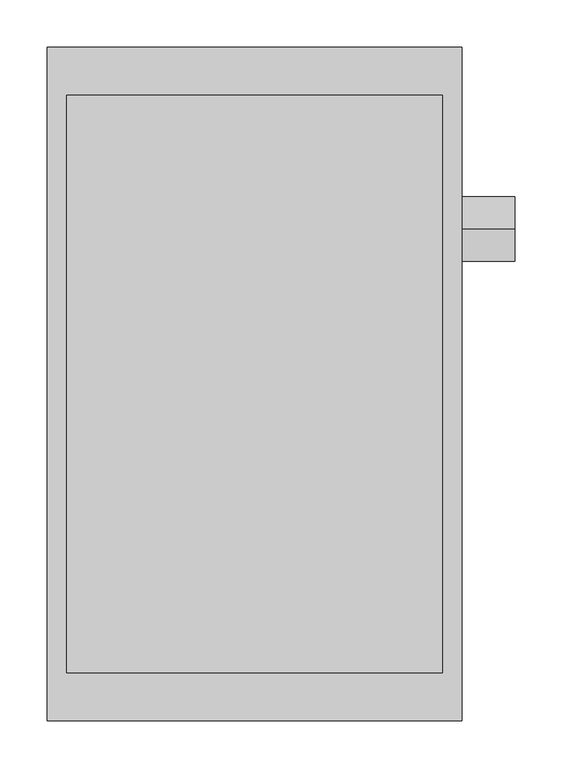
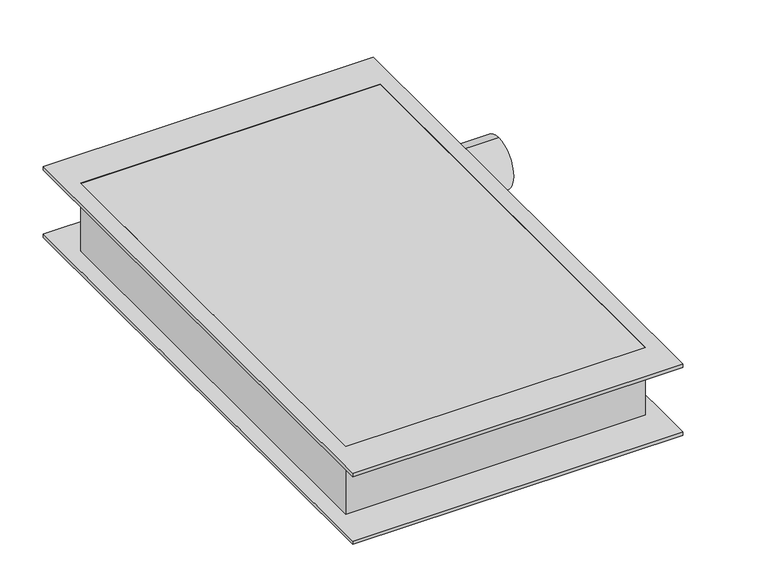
"""IFC4 building model written with IfcOpenShell, lengths in millimetres: damper geometry, 00299-Ruskin-090130-Ver10-CD82HT : Damper de Regulagem para Duto."""

import ifcopenshell
import ifcopenshell.guid

model = None  # the IFC model being written
_history = None  # IfcOwnerHistory: only IFC2X3 demands one
_inside = {}  # id of a spatial element -> (the spatial element, [elements in it])
_under = {}  # id of a project, library or spatial element -> (it, [spatial elements below it])
_declared = {}  # id of a project -> (the project, [libraries it declares])
_typed = {}  # id of a type object -> (the type object, [elements of that type])
_made_of = {}  # id of a material, layer set ... -> (it, [elements and type objects made of it])


def new_model(schema):
    """Start an empty IFC model of exactly this schema.

    Asked for "IFC4X3", IfcOpenShell would pick the latest addendum, in which some entities
    have other attributes; the version numbers below select the first issue.
    IFC2X3 requires an IfcOwnerHistory on every rooted entity: one is made here for all.
    """
    global model, _history
    if schema == "IFC4X3":
        model = ifcopenshell.file(schema_version=(4, 3, 0, 0))
    else:
        model = ifcopenshell.file(schema=schema)
    _inside.clear()
    _under.clear()
    _declared.clear()
    _typed.clear()
    _made_of.clear()
    _history = None
    if model.schema == "IFC2X3":
        org = make("IfcOrganization", Name="unknown")
        user = make(
            "IfcPersonAndOrganization",
            ThePerson=make("IfcPerson", FamilyName="unknown"),
            TheOrganization=org,
        )
        app = make(
            "IfcApplication",
            ApplicationDeveloper=org,
            Version="unknown",
            ApplicationFullName="unknown",
            ApplicationIdentifier="unknown",
        )
        _history = make(
            "IfcOwnerHistory",
            OwningUser=user,
            OwningApplication=app,
            ChangeAction="ADDED",
            CreationDate=0,
        )
    return model


def make(cls, **values):
    """One entity of the class cls with the attributes given. An attribute that is None is left unset."""
    return model.create_entity(
        cls, **{name: value for name, value in values.items() if value is not None}
    )


def rooted(cls, **values):
    """An entity with a GlobalId (a new one), such as an element, a storey or a relation."""
    return make(cls, GlobalId=ifcopenshell.guid.new(), OwnerHistory=_history, **values)


def si_unit(unit_type, name, prefix=None):
    """IfcSIUnit, for example si_unit("LENGTHUNIT", "METRE", prefix="MILLI")."""
    return make("IfcSIUnit", UnitType=unit_type, Prefix=prefix, Name=name)


def assignment(units):
    """IfcUnitAssignment: the units of a project."""
    return None if units is None else make("IfcUnitAssignment", Units=units)


def point(xyz):
    """IfcCartesianPoint."""
    return None if xyz is None else make("IfcCartesianPoint", Coordinates=xyz)


def direction(xyz):
    """IfcDirection."""
    return None if xyz is None else make("IfcDirection", DirectionRatios=xyz)


def frame(location, z_axis=None, x_axis=None):
    """IfcAxis2Placement3D, a coordinate frame: its origin and axes. An axis left out is left unset."""
    return make(
        "IfcAxis2Placement3D",
        Location=point(location),
        Axis=direction(z_axis),
        RefDirection=direction(x_axis),
    )


def frame_2d(location, x_axis=None):
    """IfcAxis2Placement2D, a coordinate frame in the plane: its origin and x axis."""
    return make(
        "IfcAxis2Placement2D", Location=point(location), RefDirection=direction(x_axis)
    )


def origin():
    """The frame at (0, 0, 0) with its axes left unset."""
    return frame((0.0, 0.0, 0.0))


def place(relative_to, where):
    """IfcLocalPlacement: puts the frame where relative to a parent placement (None: the world)."""
    return make(
        "IfcLocalPlacement", PlacementRelTo=relative_to, RelativePlacement=where
    )


def context(
    kind, dimensions, precision=None, world=None, true_north=None, identifier=None
):
    """IfcGeometricRepresentationContext, for example the 3D "Model" context."""
    return make(
        "IfcGeometricRepresentationContext",
        ContextIdentifier=identifier,
        ContextType=kind,
        CoordinateSpaceDimension=dimensions,
        Precision=precision,
        WorldCoordinateSystem=world,
        TrueNorth=true_north,
    )


def project(units=None, contexts=None):
    """IfcProject with its units and contexts."""
    return rooted(
        "IfcProject",
        Name="project",
        RepresentationContexts=contexts,
        UnitsInContext=assignment(units),
    )


def spatial(cls, under=None, at=None, **own):
    """A site, building, storey or space (cls), placed at a placement, below another one or the project."""
    s = rooted(cls, ObjectPlacement=at, **own)
    if under is not None:
        _under.setdefault(under.id(), (under, []))[1].append(s)
    return s


def polyline(points):
    """IfcPolyline through the points."""
    return make("IfcPolyline", Points=[point(p) for p in points])


def circle_curve(where, radius):
    """IfcCircle in the frame where."""
    return make("IfcCircle", Position=where, Radius=radius)


def trimmed(basis, trim1, trim2, sense, master):
    """IfcTrimmedCurve: the piece of a basis curve between two trims."""
    return make(
        "IfcTrimmedCurve",
        BasisCurve=basis,
        Trim1=trim1,
        Trim2=trim2,
        SenseAgreement=sense,
        MasterRepresentation=master,
    )


def segment(curve, same_sense, transition):
    """IfcCompositeCurveSegment."""
    return make(
        "IfcCompositeCurveSegment",
        Transition=transition,
        SameSense=same_sense,
        ParentCurve=curve,
    )


def composite_curve(segments, self_intersect=None):
    """IfcCompositeCurve: segments joined end to end."""
    return make("IfcCompositeCurve", Segments=segments, SelfIntersect=self_intersect)


def outline(outer, holes=None, kind="AREA"):
    """IfcArbitraryClosedProfileDef: a profile drawn as a closed curve; with holes, ...WithVoids."""
    if holes is None:
        return make("IfcArbitraryClosedProfileDef", ProfileType=kind, OuterCurve=outer)
    return make(
        "IfcArbitraryProfileDefWithVoids",
        ProfileType=kind,
        OuterCurve=outer,
        InnerCurves=holes,
    )


def extrude(swept, where, along, depth):
    """IfcExtrudedAreaSolid: the profile swept, set in the frame where, extruded along a direction by depth."""
    return make(
        "IfcExtrudedAreaSolid",
        SweptArea=swept,
        Position=where,
        ExtrudedDirection=direction(along),
        Depth=depth,
    )


def shape(context_of_items, identifier, shape_type, items):
    """IfcShapeRepresentation: the items that make up one representation, for example the "Body"."""
    return make(
        "IfcShapeRepresentation",
        ContextOfItems=context_of_items,
        RepresentationIdentifier=identifier,
        RepresentationType=shape_type,
        Items=items,
    )


def source(mapping_origin, context_of_items, identifier, shape_type, items):
    """IfcRepresentationMap: a shape defined once, which mapped items show again and again."""
    return make(
        "IfcRepresentationMap",
        MappingOrigin=mapping_origin,
        MappedRepresentation=shape(context_of_items, identifier, shape_type, items),
    )


def transform(
    local_origin,
    x_axis=None,
    y_axis=None,
    z_axis=None,
    scale=None,
    scale2=None,
    scale3=None,
    uniform=True,
):
    """IfcCartesianTransformationOperator3D, or its non-uniform kind. x_axis, y_axis, z_axis: its Axis1, 2, 3."""
    if uniform:
        return make(
            "IfcCartesianTransformationOperator3D",
            Axis1=direction(x_axis),
            Axis2=direction(y_axis),
            LocalOrigin=point(local_origin),
            Scale=scale,
            Axis3=direction(z_axis),
        )
    return make(
        "IfcCartesianTransformationOperator3DnonUniform",
        Axis1=direction(x_axis),
        Axis2=direction(y_axis),
        LocalOrigin=point(local_origin),
        Scale=scale,
        Axis3=direction(z_axis),
        Scale2=scale2,
        Scale3=scale3,
    )


def mapped(mapping_source, mapping_target):
    """IfcMappedItem: shows the shape of a source again, moved by a transform."""
    return make(
        "IfcMappedItem", MappingSource=mapping_source, MappingTarget=mapping_target
    )


def made_of(thing, what):
    """Note that an element or type object is made of a material, layer set ...; save() writes the relation."""
    if what is not None:
        _made_of.setdefault(what.id(), (what, []))[1].append(thing)
    return thing


def element(
    cls,
    number,
    at=None,
    inside=None,
    cuts=None,
    type_object=None,
    material=None,
    context=None,
    identifier="Body",
    shape_type=None,
    held_by="IfcProductDefinitionShape",
    body=None,
    shapes=None,
    **own,
):
    """One element of the class cls, such as IfcWall. Its Tag is "e" and its number.

    at: its placement. inside: the storey or other place that contains it. cuts: it is an
    opening in that element (IfcRelVoidsElement). A single representation is given by context,
    identifier, shape_type and body (its items); several are given by shapes. held_by: the class
    of the entity that holds the representations. save() writes the other relations.
    """
    e = rooted(cls, Tag="e%d" % number, ObjectPlacement=at, **own)
    if body is not None:
        shapes = [shape(context, identifier, shape_type, body)]
    if shapes is not None:
        e.Representation = make(held_by, Representations=shapes)
    if inside is not None:
        _inside.setdefault(inside.id(), (inside, []))[1].append(e)
    if cuts is not None:
        rooted(
            "IfcRelVoidsElement", RelatingBuildingElement=cuts, RelatedOpeningElement=e
        )
    if type_object is not None:
        _typed.setdefault(type_object.id(), (type_object, []))[1].append(e)
    return made_of(e, material)


def aggregate(whole, parts):
    """IfcRelAggregates: a whole, such as a stair, and the parts it consists of."""
    return rooted("IfcRelAggregates", RelatingObject=whole, RelatedObjects=parts)


def save(model, path):
    """Write the relations noted so far, then the file.

    IfcRelAggregates (storeys below a building ...), IfcRelContainedInSpatialStructure (elements
    in a storey), IfcRelDefinesByType, IfcRelAssociatesMaterial and IfcRelDeclares: one each for
    every whole, place, type object, material and project.
    """
    for whole, parts in _under.values():
        aggregate(whole, parts)
    for where, things in _inside.values():
        rooted(
            "IfcRelContainedInSpatialStructure",
            RelatedElements=things,
            RelatingStructure=where,
        )
    for kind, things in _typed.values():
        rooted("IfcRelDefinesByType", RelatedObjects=things, RelatingType=kind)
    for what, things in _made_of.values():
        rooted("IfcRelAssociatesMaterial", RelatedObjects=things, RelatingMaterial=what)
    for by, libraries in _declared.values():
        rooted("IfcRelDeclares", RelatingContext=by, RelatedDefinitions=libraries)
    model.write(path)


def damper_114d0c41(model_context):
    return source(origin(), model_context, "Body", "SweptSolid", [
        extrude(outline(polyline([(219.1669126, -994.745714), (219.1669126, -1705.945714), (-219.1669126, -1705.945714), (-219.1669126, -994.745714), (219.1669126, -994.745714)]), holes=[polyline([(198.75, -1045.545714), (-198.75, -1045.545714), (-198.75, -1655.145714), (198.75, -1655.145714), (198.75, -1045.545714)])]), frame((0.0, 0.0, 753.1086317), z_axis=(0.0, 0.0, 1.0), x_axis=(1.0, 0.0, 0.0)), (0.0, 0.0, 1.0), 4.7625),
        extrude(outline(polyline([(219.1669126, -994.745714), (219.1669126, -1705.945714), (-219.1669126, -1705.945714), (-219.1669126, -994.745714), (219.1669126, -994.745714)]), holes=[polyline([(198.75, -1045.545714), (-198.75, -1045.545714), (-198.75, -1655.145714), (198.75, -1655.145714), (198.75, -1045.545714)])]), frame((0.0, 0.0, 848.3461317), z_axis=(0.0, 0.0, 1.0), x_axis=(1.0, 0.0, 0.0)), (0.0, 0.0, 1.0), 4.7625),
        extrude(outline(composite_curve([segment(trimmed(circle_curve(frame_2d((-1186.6752759, 803.1086317)), 33.8666667), [point((-1186.6752759, 836.9752984))], [point((-1186.6752759, 769.2419651))], False, "CARTESIAN"), True, "CONTINUOUS"), segment(trimmed(circle_curve(frame_2d((-1186.6752759, 803.1086317)), 33.8666667), [point((-1186.6752759, 769.2419651))], [point((-1186.6752759, 836.9752984))], False, "CARTESIAN"), True, "CONTINUOUS")], self_intersect=False)), frame((198.75, 0.0, 0.0), z_axis=(1.0, 0.0, 0.0), x_axis=(0.0, 1.0, 0.0)), (0.0, 0.0, 1.0), 76.2),
        extrude(outline(polyline([(198.75, -1045.545714), (198.75, -1655.145714), (-198.75, -1655.145714), (-198.75, -1045.545714), (198.75, -1045.545714)])), frame((0.0, 0.0, 753.1086317), z_axis=(0.0, 0.0, 1.0), x_axis=(1.0, 0.0, 0.0)), (0.0, 0.0, 1.0), 100.0),
    ])


if __name__ == "__main__":
    model = new_model("IFC4")
    model_context = context("Model", 3, world=origin())
    ifc_project = project(units=[si_unit("LENGTHUNIT", "METRE", prefix="MILLI")], contexts=[model_context])
    site = spatial("IfcSite", under=ifc_project)
    building = spatial("IfcBuilding", under=site)
    placement = place(None, origin())
    damper_shape = damper_114d0c41(model_context)
    element("IfcDamper", 1, ObjectType="00299-Ruskin-090130-Ver10-CD82HT : Damper de Regulagem para Duto", at=placement, inside=building, context=model_context, shape_type="MappedRepresentation", body=[
        mapped(damper_shape, transform((0.0, 0.0, 0.0), x_axis=(1.0, 0.0, 0.0), y_axis=(0.0, 1.0, 0.0), z_axis=(0.0, 0.0, 1.0))),
    ])
    save(model, "model.ifc")
